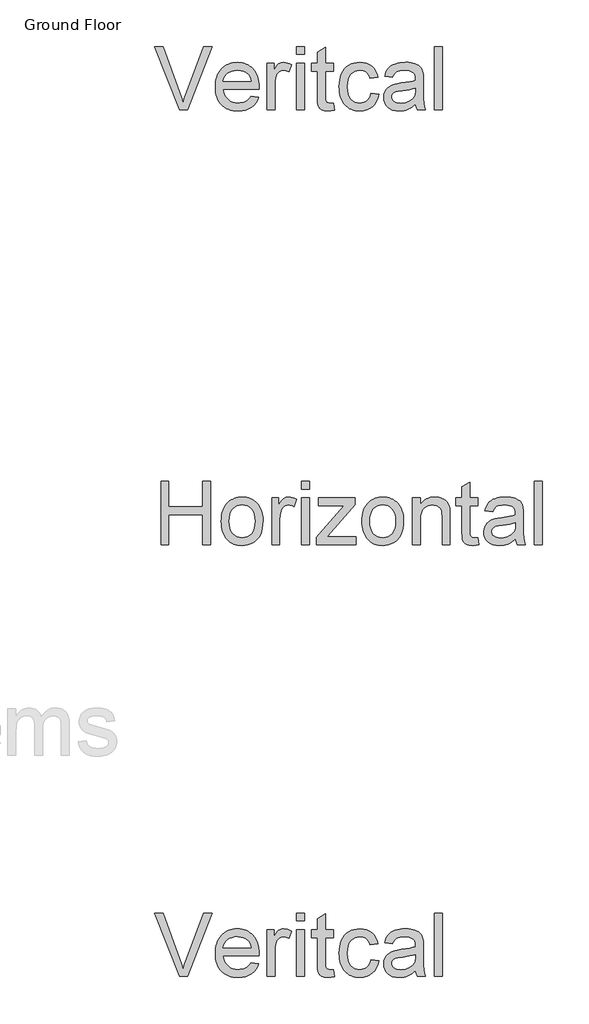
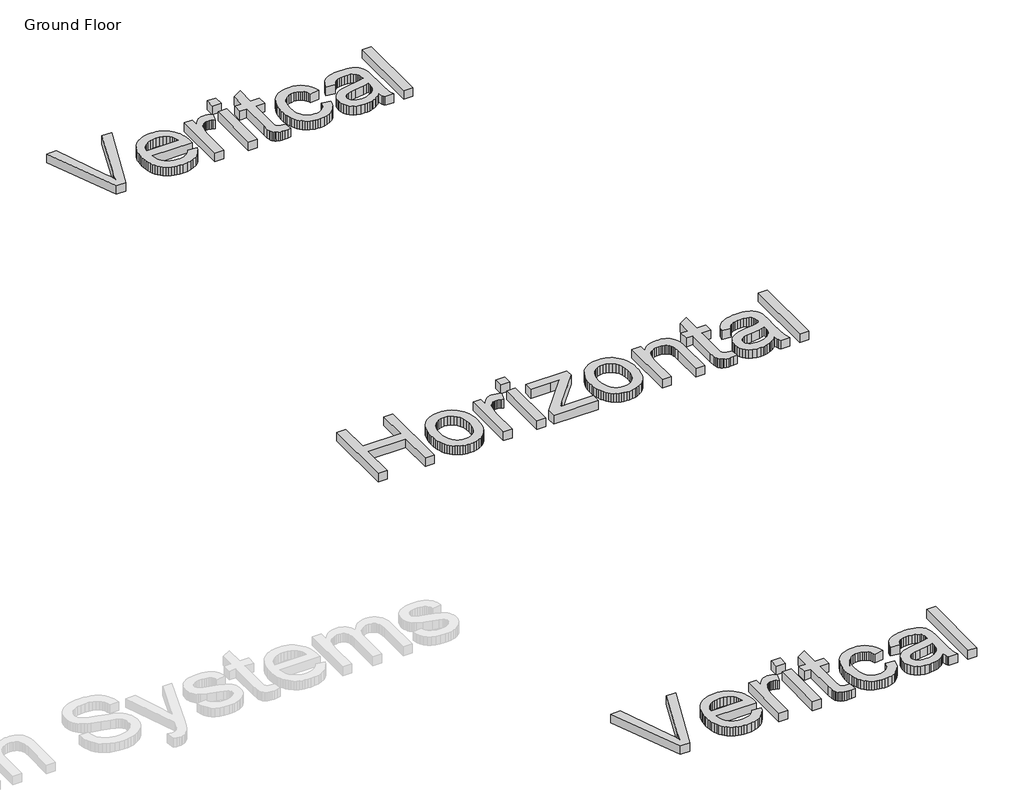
# One storey, part 4 of 9: 3 proxies.
"""IFC4 building model written with IfcOpenShell, lengths in millimetres."""

from ifc_helpers import new_model, si_unit, origin, origin_with_axes, place, context, project, spatial, polyline, outline, extrude, element, save

model = new_model("IFC4")

# Units and contexts
model_context = context("Model", 3, world=origin())
ifc_project = project(units=[si_unit("LENGTHUNIT", "METRE", prefix="MILLI")], contexts=[model_context])

# Site, building, storey
site = spatial("IfcSite", under=ifc_project)
building = spatial("IfcBuilding", under=site)
storey = spatial("IfcBuildingStorey", under=building, Name="Ground Floor", Elevation=0.0)

# Proxies
placement = place(None, origin())
element("IfcBuildingElementProxy", 1, Name="1200mm Arial", ObjectType="1200mm Arial", at=placement, inside=storey, context=model_context, shape_type="SweptSolid", body=[
    extrude(outline(polyline([(-61169.2536736, -20199.8558388), (-61636.9525372, -19024.5831115), (-61479.7139008, -19024.5831115), (-61166.6712872, -19871.318907), (-61131.8808042, -19969.9517195), (-61103.2593554, -20062.1285661), (-61074.1357758, -19966.6520036), (-61040.708219, -19871.318907), (-60726.8048099, -19024.5831115), (-60569.5661736, -19024.5831115), (-61017.4667417, -20199.8558388), (-61169.2536736, -20199.8558388)])), origin_with_axes(), (0.0, 0.0, 1.0), 150.0),
    extrude(outline(polyline([(-59847.0718554, -19942.7649297), (-59703.0320827, -19961.1285661), (-59725.116866, -20018.8197948), (-59754.9308753, -20069.6605263), (-59792.4741103, -20113.6507607), (-59837.7465713, -20150.7904979), (-59890.2819939, -20180.2906755), (-59949.6141139, -20201.3622309), (-60015.7429314, -20214.0051641), (-60088.6684463, -20218.2194752), (-60135.4876491, -20216.4014931), (-60179.8230983, -20210.9475469), (-60221.6747939, -20201.8576366), (-60261.0427361, -20189.1317621), (-60297.9269246, -20172.7699235), (-60332.3273596, -20152.7721208), (-60364.2440411, -20129.1383539), (-60393.676969, -20101.8686229), (-60420.1060795, -20071.3171092), (-60443.0113085, -20037.8379943), (-60462.3926562, -20001.4312783), (-60478.2501224, -19962.096961), (-60490.5837073, -19919.8350425), (-60499.3934108, -19874.6455228), (-60504.6792329, -19826.5284018), (-60506.4411736, -19775.4836797), (-60504.6612996, -19722.7016751), (-60499.3216778, -19672.9593544), (-60490.4223081, -19626.2567177), (-60477.9631906, -19582.5937649), (-60461.9443252, -19541.9704961), (-60442.3657119, -19504.3869112), (-60419.2273508, -19469.8430103), (-60392.5292417, -19438.3387934), (-60362.9931977, -19410.2284418), (-60331.3410315, -19385.8661371), (-60297.5727432, -19365.2518793), (-60261.6883327, -19348.3856684), (-60223.6878, -19335.2675043), (-60183.5711452, -19325.8973871), (-60141.3383682, -19320.2753168), (-60096.989469, -19318.4012934), (-60054.0909205, -19320.2708335), (-60013.1964115, -19325.8794539), (-59974.3059418, -19335.2271545), (-59937.4195116, -19348.3139354), (-59902.5371208, -19365.1397965), (-59869.6587694, -19385.704738), (-59838.7844575, -19410.0087596), (-59809.9141849, -19438.0518615), (-59783.7876979, -19469.4843456), (-59761.1447425, -19503.9565135), (-59741.9853186, -19541.4683654), (-59726.3094264, -19582.0199013), (-59714.1170658, -19625.6111211), (-59705.4082368, -19672.2420249), (-59700.1829394, -19721.9126126), (-59698.4411736, -19774.6228843), (-59699.301969, -19814.2194752), (-60359.5320827, -19814.2194752), (-60351.0227609, -19872.8432323), (-60334.1027503, -19924.1860945), (-60308.7720507, -19968.2480618), (-60275.0306622, -20005.0291343), (-60234.7436416, -20034.0271811), (-60189.7760457, -20054.7400718), (-60140.1278746, -20067.1678061), (-60085.7991281, -20071.3103843), (-60045.1624094, -20069.3915277), (-60007.6102077, -20063.6349581), (-59973.142523, -20054.0406755), (-59941.7593554, -20040.6086797), (-59913.4607048, -20022.9803061), (-59888.2465713, -20000.7968899), (-59866.1169548, -19974.0584311), (-59847.0718554, -19942.7649297)]), holes=[polyline([(-60359.5320827, -19667.3103843), (-59845.3502645, -19667.3103843), (-59852.9001579, -19625.7411371), (-59865.2202929, -19589.6953274), (-59882.3106693, -19559.1729553), (-59904.1712872, -19534.1740206), (-59944.2341423, -19504.0461797), (-59989.8204349, -19482.5262934), (-60040.930165, -19469.6143615), (-60097.5633327, -19465.3103843), (-60149.2200265, -19468.7445995), (-60196.5906764, -19479.0472451), (-60239.6752822, -19496.2183211), (-60278.473844, -19520.2578274), (-60311.0316388, -19550.0539034), (-60335.3939434, -19584.4946882), (-60351.5607581, -19623.5801818), (-60359.5320827, -19667.3103843)])]), origin_with_axes(), (0.0, 0.0, 1.0), 150.0),
    extrude(outline(polyline([(-59551.5320827, -20199.8558388), (-59551.5320827, -19336.7649297), (-59422.9866281, -19336.7649297), (-59422.9866281, -19464.4495888), (-59398.7767559, -19423.6335377), (-59375.4994122, -19390.4211797), (-59353.1545969, -19364.8125149), (-59331.7423099, -19346.8075434), (-59310.2941565, -19334.379809), (-59287.8417417, -19325.5028559), (-59264.3850656, -19320.176684), (-59239.9241281, -19318.4012934), (-59203.4837872, -19321.2347451), (-59166.7565145, -19329.7351002), (-59129.7423099, -19343.9023587), (-59092.4411736, -19363.7365206), (-59141.5065145, -19495.4382252), (-59167.3303781, -19482.2572948), (-59193.1542417, -19472.8423445), (-59218.9781054, -19467.1933743), (-59244.801969, -19465.3103843), (-59267.3171501, -19467.1216414), (-59288.6666707, -19472.5554127), (-59308.8505308, -19481.6116982), (-59327.8687304, -19494.2904979), (-59345.0039399, -19510.1793473), (-59359.5388298, -19528.865782), (-59371.4734001, -19550.3498019), (-59380.8076508, -19574.631407), (-59391.2268625, -19614.7301286), (-59398.6691565, -19656.693907), (-59404.6229917, -19746.2166343), (-59404.6229917, -20199.8558388), (-59551.5320827, -20199.8558388)])), origin_with_axes(), (0.0, 0.0, 1.0), 150.0),
    extrude(outline(polyline([(-59000.6229917, -19171.4922024), (-59000.6229917, -19024.5831115), (-58853.7139008, -19024.5831115), (-58853.7139008, -19171.4922024), (-59000.6229917, -19171.4922024)])), origin_with_axes(), (0.0, 0.0, 1.0), 150.0),
    extrude(outline(polyline([(-59000.6229917, -20199.8558388), (-59000.6229917, -19336.7649297), (-58853.7139008, -19336.7649297), (-58853.7139008, -20199.8558388), (-59000.6229917, -20199.8558388)])), origin_with_axes(), (0.0, 0.0, 1.0), 150.0),
    extrude(outline(polyline([(-58321.1684463, -20077.3359524), (-58302.8048099, -20204.1598161), (-58360.9802361, -20214.7045604), (-58412.6996963, -20218.2194752), (-58450.1980983, -20216.6951499), (-58483.2131906, -20212.122174), (-58511.7449733, -20204.5005476), (-58535.7934463, -20193.8302706), (-58555.986273, -20180.6852067), (-58572.9511167, -20165.6392195), (-58586.6879775, -20148.692309), (-58597.1968554, -20129.8444752), (-58604.9798809, -20104.5765419), (-58610.5391849, -20068.3693331), (-58614.9866281, -19963.1370888), (-58614.9866281, -19483.6740206), (-58725.1684463, -19483.6740206), (-58725.1684463, -19336.7649297), (-58614.9866281, -19336.7649297), (-58614.9866281, -19127.0177706), (-58468.0775372, -19040.6512934), (-58468.0775372, -19336.7649297), (-58321.1684463, -19336.7649297), (-58321.1684463, -19483.6740206), (-58468.0775372, -19483.6740206), (-58468.0775372, -19958.8331115), (-58466.1407474, -20007.1811229), (-58460.3303781, -20034.5831115), (-58450.180165, -20049.7546314), (-58435.223844, -20061.4112365), (-58414.0267559, -20068.8355973), (-58385.1542417, -20071.3103843), (-58321.1684463, -20077.3359524)])), origin_with_axes(), (0.0, 0.0, 1.0), 150.0),
    extrude(outline(polyline([(-57623.3502645, -19887.6740206), (-57476.4411736, -19906.037657), (-57492.4196892, -19975.3585909), (-57517.4006906, -20036.6992337), (-57551.3841778, -20090.0595853), (-57594.3701508, -20135.4396456), (-57644.5473525, -20171.6558211), (-57700.1045258, -20197.5245178), (-57761.0416707, -20213.0457358), (-57827.3587872, -20218.2194752), (-57869.6207057, -20216.414943), (-57909.7530521, -20211.0013466), (-57947.7558264, -20201.9786859), (-57983.6290287, -20189.346961), (-58017.3726588, -20173.1061717), (-58048.9867169, -20153.2563182), (-58078.4712029, -20129.7974004), (-58105.8261167, -20102.7294184), (-58130.4731116, -20072.2899874), (-58151.8338405, -20038.716723), (-58169.9083034, -20002.0096252), (-58184.6965003, -19962.1686939), (-58196.1984312, -19919.1939292), (-58204.4140961, -19873.085331), (-58209.3434951, -19823.8428994), (-58210.9866281, -19771.4666343), (-58208.1800763, -19703.9210909), (-58199.7604207, -19640.7333246), (-58185.7276615, -19581.9033353), (-58166.0817986, -19527.4311229), (-58140.6883327, -19478.4106151), (-58109.4127645, -19435.9357394), (-58072.255094, -19400.0064958), (-58029.2153213, -19370.6228843), (-57982.2392027, -19347.7759382), (-57933.2724946, -19331.4566911), (-57882.315197, -19321.6651428), (-57829.3673099, -19318.4012934), (-57764.1889541, -19322.884603), (-57705.2334321, -19336.334532), (-57652.5007439, -19358.7510803), (-57605.9908895, -19390.1342479), (-57566.4929314, -19429.7667053), (-57534.7959321, -19476.9311229), (-57510.8998916, -19531.6275007), (-57494.8048099, -19593.8558388), (-57641.7139008, -19612.2194752), (-57653.1822069, -19577.904223), (-57668.3626934, -19548.1260803), (-57687.2553603, -19522.8850469), (-57709.8602077, -19502.1811229), (-57735.6033717, -19486.0501747), (-57763.9109889, -19474.5280689), (-57794.7830592, -19467.6148054), (-57828.2195827, -19465.3103843), (-57878.1367524, -19469.8474936), (-57923.158148, -19483.4588218), (-57963.2837694, -19506.1443686), (-57998.5136167, -19537.9041343), (-58013.8801606, -19557.3706648), (-58027.1978319, -19579.4733814), (-58047.6865571, -19631.5873729), (-58059.9797922, -19694.2461087), (-58064.0775372, -19767.4495888), (-58060.0694584, -19841.7559631), (-58048.0452219, -19905.1409951), (-58028.0048277, -19957.6046847), (-58014.9785715, -19979.7410261), (-57999.9482758, -19999.147032), (-57965.4178248, -20030.7184986), (-57925.9557332, -20053.2695462), (-57881.562001, -20066.8001747), (-57832.2366281, -20071.3103843), (-57792.4876047, -20068.4948658), (-57756.1638298, -20060.0483104), (-57723.2653035, -20045.9707181), (-57693.7920258, -20026.2620888), (-57668.5689257, -20000.7072237), (-57648.4209321, -19969.090924), (-57633.348045, -19931.4131897), (-57623.3502645, -19887.6740206)])), origin_with_axes(), (0.0, 0.0, 1.0), 150.0),
    extrude(outline(polyline([(-56796.9866281, -20089.6740206), (-56831.8219442, -20122.3663147), (-56867.1773241, -20149.8579695), (-56903.052768, -20172.1489851), (-56939.4482758, -20189.2393615), (-56976.7763121, -20201.9181612), (-57015.4493412, -20210.9744468), (-57055.4673632, -20216.4082181), (-57096.8303781, -20218.2194752), (-57162.241866, -20213.8616982), (-57219.6013298, -20200.7883672), (-57268.9087694, -20178.9994823), (-57310.1641849, -20148.4950434), (-57342.7399129, -20111.2118402), (-57366.00829, -20069.0866627), (-57379.9693163, -20022.1195107), (-57384.6229917, -19970.3103843), (-57382.8655344, -19939.1603487), (-57377.5931622, -19909.4091059), (-57368.8058753, -19881.0566556), (-57356.5036736, -19854.1029979), (-57341.3411203, -19829.1399297), (-57323.9727787, -19806.7592479), (-57304.3986487, -19786.9609524), (-57282.6187304, -19769.7450434), (-57234.0196537, -19741.7691911), (-57179.7536736, -19721.5404979), (-57126.8864861, -19710.278424), (-57052.6428781, -19699.4467479), (-56902.4340713, -19676.2052706), (-56844.4379775, -19663.0781399), (-56797.8474236, -19648.9467479), (-56796.9866281, -19616.2365206), (-56799.5152148, -19580.6211087), (-56807.1009747, -19550.6726002), (-56819.7439079, -19526.3909951), (-56837.4440145, -19507.7762934), (-56868.0381196, -19489.1974581), (-56905.3033895, -19475.9268615), (-56949.2398241, -19467.9645036), (-56999.8474236, -19465.3103843), (-57046.9042417, -19467.0768083), (-57087.3616281, -19472.3760803), (-57121.2195827, -19481.2082003), (-57148.4781054, -19493.5731684), (-57170.8767204, -19510.4393793), (-57190.154952, -19532.775228), (-57206.3128, -19560.5807145), (-57219.3502645, -19593.8558388), (-57366.2593554, -19575.4922024), (-57355.0779811, -19533.1697593), (-57340.75829, -19495.1512934), (-57323.3002822, -19461.4368047), (-57302.7039577, -19432.0262934), (-57278.081621, -19406.3279624), (-57248.545577, -19383.7500149), (-57214.0958255, -19364.292451), (-57174.7323667, -19347.9552706), (-57131.2532297, -19335.0254056), (-57084.4564434, -19325.7897877), (-57034.3420081, -19320.2484169), (-56980.9099236, -19318.4012934), (-56928.679366, -19320.0332181), (-56881.595648, -19324.9289922), (-56839.6587694, -19333.0886158), (-56802.8687304, -19344.5120888), (-56770.9206657, -19358.4013821), (-56743.5097105, -19373.9584666), (-56720.6358646, -19391.1833424), (-56702.2991281, -19410.0760093), (-56687.4324733, -19431.1027316), (-56674.9688724, -19454.7297735), (-56657.2508327, -19509.7848161), (-56651.8708611, -19560.5717479), (-56650.0775372, -19638.3302706), (-56650.0775372, -19821.1058388), (-56648.2124804, -19980.3171314), (-56642.6173099, -20076.3316911), (-56631.5704349, -20139.4208246), (-56613.3502645, -20199.8558388), (-56760.2593554, -20199.8558388), (-56773.3147531, -20175.3231684), (-56783.7877645, -20148.7819752), (-56796.9866281, -20089.6740206)]), holes=[polyline([(-56796.9866281, -19795.8558388), (-56841.389327, -19808.570505), (-56895.6911736, -19820.3167763), (-57033.9923099, -19840.9041343), (-57110.2085741, -19852.1662081), (-57160.3857758, -19864.7194752), (-57193.2753355, -19881.0028559), (-57217.6286736, -19903.4552706), (-57232.692594, -19930.3551286), (-57237.7139008, -19959.9808388), (-57234.9790819, -19982.8098516), (-57226.7746253, -20003.6662081), (-57213.1005308, -20022.5499084), (-57193.9567986, -20039.4609524), (-57169.5227609, -20053.3950789), (-57139.9777503, -20063.3480263), (-57105.3217666, -20069.3197948), (-57065.5548099, -20071.3103843), (-57024.9539577, -20069.1135625), (-56986.6485599, -20062.5230973), (-56950.6386167, -20051.5389887), (-56916.9241281, -20036.1612365), (-56886.5093554, -20017.6631009), (-56860.3985599, -19997.3178416), (-56838.5917417, -19975.1254588), (-56821.0889008, -19951.0859524), (-56810.9207545, -19929.5660661), (-56803.6577929, -19903.4552706), (-56799.3000159, -19872.7535661), (-56797.8474236, -19837.4609524), (-56796.9866281, -19795.8558388)])]), origin_with_axes(), (0.0, 0.0, 1.0), 150.0),
    extrude(outline(polyline([(-56448.0775372, -20199.8558388), (-56448.0775372, -19024.5831115), (-56301.1684463, -19024.5831115), (-56301.1684463, -20199.8558388), (-56448.0775372, -20199.8558388)])), origin_with_axes(), (0.0, 0.0, 1.0), 150.0),
])
element("IfcBuildingElementProxy", 2, Name="1200mm Arial", ObjectType="1200mm Arial", at=placement, inside=storey, context=model_context, shape_type="SweptSolid", body=[
    extrude(outline(polyline([(-61516.4411736, -12199.8558388), (-61516.4411736, -11024.5831115), (-61369.5320827, -11024.5831115), (-61369.5320827, -11502.037657), (-60745.1684463, -11502.037657), (-60745.1684463, -11024.5831115), (-60598.2593554, -11024.5831115), (-60598.2593554, -12199.8558388), (-60745.1684463, -12199.8558388), (-60745.1684463, -11648.9467479), (-61369.5320827, -11648.9467479), (-61369.5320827, -12199.8558388), (-61516.4411736, -12199.8558388)])), origin_with_axes(), (0.0, 0.0, 1.0), 150.0),
    extrude(outline(polyline([(-60396.2593554, -11768.3103843), (-60394.2732492, -11710.4891396), (-60388.3149307, -11656.5325078), (-60378.3843998, -11606.440489), (-60364.4816565, -11560.2130831), (-60346.6067009, -11517.8502902), (-60324.7595329, -11479.3521101), (-60298.9401526, -11444.718543), (-60269.1485599, -11413.9495888), (-60241.8810706, -11391.5554571), (-60213.1609889, -11372.1472095), (-60182.9883149, -11355.7248463), (-60151.3630486, -11342.2883672), (-60118.2851899, -11331.8377724), (-60083.7547389, -11324.3730618), (-60010.3360599, -11318.4012934), (-59968.8407874, -11320.2192754), (-59929.2867879, -11325.6732216), (-59891.6740615, -11334.763132), (-59856.0026082, -11347.4890064), (-59822.272428, -11363.850845), (-59790.4835209, -11383.8486478), (-59760.6358868, -11407.4824146), (-59732.7295258, -11434.7521456), (-59707.4772842, -11465.227443), (-59685.5920081, -11498.4779091), (-59667.0736975, -11534.5035439), (-59651.9223525, -11573.3043473), (-59640.1379731, -11614.8803195), (-59631.7205592, -11659.2314603), (-59626.6701109, -11706.3577697), (-59624.9866281, -11756.2592479), (-59627.9635457, -11834.8964993), (-59636.8942986, -11904.6747309), (-59651.7788866, -11965.5939425), (-59672.6173099, -12017.6541343), (-59699.1495365, -12062.6217301), (-59731.1155344, -12102.2631541), (-59768.5153035, -12136.5784063), (-59811.348844, -12165.5674865), (-59857.9483646, -12188.6027316), (-59906.6460741, -12205.056478), (-59957.4419726, -12214.9287259), (-60010.3360599, -12218.2194752), (-60052.4858957, -12216.4082181), (-60092.5689257, -12210.9744468), (-60130.5851499, -12201.9181612), (-60166.5345684, -12189.2393615), (-60200.4171812, -12172.9380476), (-60232.2329882, -12153.0142195), (-60261.9819894, -12129.4678772), (-60289.6641849, -12102.2990206), (-60314.647428, -12071.7228487), (-60336.299572, -12037.9545604), (-60354.6206169, -12000.9941556), (-60369.6105628, -11960.8416343), (-60381.2694095, -11917.4969965), (-60389.5971572, -11870.9602422), (-60394.5938058, -11821.2313715), (-60396.2593554, -11768.3103843)]), holes=[polyline([(-60249.3502645, -11768.0234524), (-60245.1000869, -11839.2811762), (-60232.3495542, -11900.9804837), (-60211.0986665, -11953.121375), (-60181.3474236, -11995.7038502), (-60145.158148, -12028.7817088), (-60104.5931622, -12052.4087507), (-60059.6524662, -12066.5849759), (-60010.3360599, -12071.3103843), (-59961.270719, -12066.558076), (-59916.5093554, -12052.3011513), (-59876.051969, -12028.5396101), (-59839.8985599, -11995.2734524), (-59810.147317, -11952.2695462), (-59788.8964292, -11899.2947593), (-59776.1458966, -11836.3490916), (-59771.895719, -11763.4325434), (-59776.1727964, -11694.4344077), (-59789.0040287, -11634.3490916), (-59810.3894157, -11583.1765952), (-59840.3289577, -11540.9169184), (-59876.616866, -11507.8390597), (-59917.0473525, -11484.2120178), (-59961.6204172, -11470.0357926), (-60010.3360599, -11465.3103843), (-60059.6524662, -11470.0178594), (-60104.5931622, -11484.1402848), (-60145.158148, -11507.6776605), (-60181.3474236, -11540.6299865), (-60211.0986665, -11583.086929), (-60232.3495542, -11635.1381541), (-60245.1000869, -11696.783662), (-60249.3502645, -11768.0234524)])]), origin_with_axes(), (0.0, 0.0, 1.0), 150.0),
    extrude(outline(polyline([(-59459.7139008, -12199.8558388), (-59459.7139008, -11336.7649297), (-59331.1684463, -11336.7649297), (-59331.1684463, -11464.4495888), (-59306.9585741, -11423.6335377), (-59283.6812304, -11390.4211797), (-59261.336415, -11364.8125149), (-59239.9241281, -11346.8075434), (-59218.4759747, -11334.379809), (-59196.0235599, -11325.5028559), (-59172.5668838, -11320.176684), (-59148.1059463, -11318.4012934), (-59111.6656054, -11321.2347451), (-59074.9383327, -11329.7351002), (-59037.9241281, -11343.9023587), (-59000.6229917, -11363.7365206), (-59049.6883327, -11495.4382252), (-59075.5121963, -11482.2572948), (-59101.3360599, -11472.8423445), (-59127.1599236, -11467.1933743), (-59152.9837872, -11465.3103843), (-59175.4989683, -11467.1216414), (-59196.8484889, -11472.5554127), (-59217.032349, -11481.6116982), (-59236.0505486, -11494.2904979), (-59253.1857581, -11510.1793473), (-59267.720648, -11528.865782), (-59279.6552183, -11550.3498019), (-59288.989469, -11574.631407), (-59299.4086807, -11614.7301286), (-59306.8509747, -11656.693907), (-59312.8048099, -11746.2166343), (-59312.8048099, -12199.8558388), (-59459.7139008, -12199.8558388)])), origin_with_axes(), (0.0, 0.0, 1.0), 150.0),
    extrude(outline(polyline([(-58908.8048099, -11171.4922024), (-58908.8048099, -11024.5831115), (-58761.895719, -11024.5831115), (-58761.895719, -11171.4922024), (-58908.8048099, -11171.4922024)])), origin_with_axes(), (0.0, 0.0, 1.0), 150.0),
    extrude(outline(polyline([(-58908.8048099, -12199.8558388), (-58908.8048099, -11336.7649297), (-58761.895719, -11336.7649297), (-58761.895719, -12199.8558388), (-58908.8048099, -12199.8558388)])), origin_with_axes(), (0.0, 0.0, 1.0), 150.0),
    extrude(outline(polyline([(-58633.3502645, -12199.8558388), (-58633.3502645, -12061.5547024), (-58126.3417417, -11483.6740206), (-58276.4070827, -11483.6740206), (-58596.6229917, -11483.6740206), (-58596.6229917, -11336.7649297), (-57917.1684463, -11336.7649297), (-57917.1684463, -11461.5802706), (-58366.7906054, -11974.3274297), (-58435.6542417, -12052.9467479), (-58265.7906054, -12052.9467479), (-57898.8048099, -12052.9467479), (-57898.8048099, -12199.8558388), (-58633.3502645, -12199.8558388)])), origin_with_axes(), (0.0, 0.0, 1.0), 150.0),
    extrude(outline(polyline([(-57788.6229917, -11768.3103843), (-57786.6368856, -11710.4891396), (-57780.678567, -11656.5325078), (-57770.7480361, -11606.440489), (-57756.8452929, -11560.2130831), (-57738.9703373, -11517.8502902), (-57717.1231693, -11479.3521101), (-57691.303789, -11444.718543), (-57661.5121963, -11413.9495888), (-57634.2447069, -11391.5554571), (-57605.5246253, -11372.1472095), (-57575.3519513, -11355.7248463), (-57543.7266849, -11342.2883672), (-57510.6488263, -11331.8377724), (-57476.1183753, -11324.3730618), (-57402.6996963, -11318.4012934), (-57361.2044237, -11320.2192754), (-57321.6504243, -11325.6732216), (-57284.0376979, -11334.763132), (-57248.3662446, -11347.4890064), (-57214.6360644, -11363.850845), (-57182.8471572, -11383.8486478), (-57152.9995232, -11407.4824146), (-57125.0931622, -11434.7521456), (-57099.8409205, -11465.227443), (-57077.9556444, -11498.4779091), (-57059.4373339, -11534.5035439), (-57044.2859889, -11573.3043473), (-57032.5016095, -11614.8803195), (-57024.0841956, -11659.2314603), (-57019.0337472, -11706.3577697), (-57017.3502645, -11756.2592479), (-57020.3271821, -11834.8964993), (-57029.2579349, -11904.6747309), (-57044.142523, -11965.5939425), (-57064.9809463, -12017.6541343), (-57091.5131728, -12062.6217301), (-57123.4791707, -12102.2631541), (-57160.8789399, -12136.5784063), (-57203.7124804, -12165.5674865), (-57250.312001, -12188.6027316), (-57299.0097105, -12205.056478), (-57349.8056089, -12214.9287259), (-57402.6996963, -12218.2194752), (-57444.849532, -12216.4082181), (-57484.9325621, -12210.9744468), (-57522.9487863, -12201.9181612), (-57558.8982048, -12189.2393615), (-57592.7808176, -12172.9380476), (-57624.5966246, -12153.0142195), (-57654.3456258, -12129.4678772), (-57682.0278213, -12102.2990206), (-57707.0110644, -12071.7228487), (-57728.6632084, -12037.9545604), (-57746.9842533, -12000.9941556), (-57761.9741991, -11960.8416343), (-57773.6330459, -11917.4969965), (-57781.9607936, -11870.9602422), (-57786.9574422, -11821.2313715), (-57788.6229917, -11768.3103843)]), holes=[polyline([(-57641.7139008, -11768.0234524), (-57637.4637233, -11839.2811762), (-57624.7131906, -11900.9804837), (-57603.4623028, -11953.121375), (-57573.7110599, -11995.7038502), (-57537.5217844, -12028.7817088), (-57496.9567986, -12052.4087507), (-57452.0161025, -12066.5849759), (-57402.6996963, -12071.3103843), (-57353.6343554, -12066.558076), (-57308.8729917, -12052.3011513), (-57268.4156054, -12028.5396101), (-57232.2621963, -11995.2734524), (-57202.5109534, -11952.2695462), (-57181.2600656, -11899.2947593), (-57168.5095329, -11836.3490916), (-57164.2593554, -11763.4325434), (-57168.5364328, -11694.4344077), (-57181.367665, -11634.3490916), (-57202.7530521, -11583.1765952), (-57232.692594, -11540.9169184), (-57268.9805024, -11507.8390597), (-57309.4109889, -11484.2120178), (-57353.9840535, -11470.0357926), (-57402.6996963, -11465.3103843), (-57452.0161025, -11470.0178594), (-57496.9567986, -11484.1402848), (-57537.5217844, -11507.6776605), (-57573.7110599, -11540.6299865), (-57603.4623028, -11583.086929), (-57624.7131906, -11635.1381541), (-57637.4637233, -11696.783662), (-57641.7139008, -11768.0234524)])]), origin_with_axes(), (0.0, 0.0, 1.0), 150.0),
    extrude(outline(polyline([(-56852.0775372, -12199.8558388), (-56852.0775372, -11336.7649297), (-56705.1684463, -11336.7649297), (-56705.1684463, -11457.2762934), (-56680.9316743, -11424.7274652), (-56654.1304491, -11396.5184809), (-56624.7647709, -11372.6493402), (-56592.8346395, -11353.1200434), (-56558.340055, -11337.9305902), (-56521.2810173, -11327.0809809), (-56481.6575265, -11320.5712152), (-56439.4695827, -11318.4012934), (-56402.5002112, -11320.1497841), (-56367.055165, -11325.3952564), (-56333.1344442, -11334.1377103), (-56300.7380486, -11346.3771456), (-56271.0944051, -11361.4589993), (-56245.4319406, -11378.7287081), (-56223.7506551, -11398.186272), (-56206.0505486, -11419.8316911), (-56179.330023, -11469.5784951), (-56162.0065145, -11527.8615206), (-56156.1961452, -11583.5980263), (-56154.2593554, -11669.8927706), (-56154.2593554, -12199.8558388), (-56301.1684463, -12199.8558388), (-56301.1684463, -11689.6910661), (-56305.4006906, -11613.7258672), (-56310.690996, -11583.9746243), (-56318.0974236, -11559.7109524), (-56328.1848703, -11539.276027), (-56341.5182332, -11521.0110235), (-56358.0975123, -11504.9159418), (-56377.9227077, -11490.990782), (-56400.3123561, -11479.755608), (-56424.5849946, -11471.7304837), (-56450.7406231, -11466.9154091), (-56478.7792417, -11465.3103843), (-56523.3881728, -11468.9149652), (-56564.8229207, -11479.7287081), (-56603.0834853, -11497.751613), (-56638.1698667, -11522.9836797), (-56653.8726588, -11539.0204784), (-56667.4817453, -11558.2942266), (-56678.9971262, -11580.8049244), (-56688.4188014, -11606.5525718), (-56700.9810351, -11667.7587152), (-56705.1684463, -11741.912657), (-56705.1684463, -12199.8558388), (-56852.0775372, -12199.8558388)])), origin_with_axes(), (0.0, 0.0, 1.0), 150.0),
    extrude(outline(polyline([(-55640.0775372, -12077.3359524), (-55621.7139008, -12204.1598161), (-55679.889327, -12214.7045604), (-55731.6087872, -12218.2194752), (-55769.1071892, -12216.6951499), (-55802.1222815, -12212.122174), (-55830.6540642, -12204.5005476), (-55854.7025372, -12193.8302706), (-55874.8953639, -12180.6852067), (-55891.8602077, -12165.6392195), (-55905.5970684, -12148.692309), (-55916.1059463, -12129.8444752), (-55923.8889719, -12104.5765419), (-55929.4482758, -12068.3693331), (-55933.895719, -11963.1370888), (-55933.895719, -11483.6740206), (-56044.0775372, -11483.6740206), (-56044.0775372, -11336.7649297), (-55933.895719, -11336.7649297), (-55933.895719, -11127.0177706), (-55786.9866281, -11040.6512934), (-55786.9866281, -11336.7649297), (-55640.0775372, -11336.7649297), (-55640.0775372, -11483.6740206), (-55786.9866281, -11483.6740206), (-55786.9866281, -11958.8331115), (-55785.0498383, -12007.1811229), (-55779.239469, -12034.5831115), (-55769.0892559, -12049.7546314), (-55754.1329349, -12061.4112365), (-55732.9358469, -12068.8355973), (-55704.0633327, -12071.3103843), (-55640.0775372, -12077.3359524)])), origin_with_axes(), (0.0, 0.0, 1.0), 150.0),
    extrude(outline(polyline([(-54942.2593554, -12089.6740206), (-54977.0946714, -12122.3663147), (-55012.4500514, -12149.8579695), (-55048.3254953, -12172.1489851), (-55084.7210031, -12189.2393615), (-55122.0490393, -12201.9181612), (-55160.7220684, -12210.9744468), (-55200.7400905, -12216.4082181), (-55242.1031054, -12218.2194752), (-55307.5145933, -12213.8616982), (-55364.8740571, -12200.7883672), (-55414.1814967, -12178.9994823), (-55455.4369122, -12148.4950434), (-55488.0126402, -12111.2118402), (-55511.2810173, -12069.0866627), (-55525.2420436, -12022.1195107), (-55529.895719, -11970.3103843), (-55528.1382616, -11939.1603487), (-55522.8658895, -11909.4091059), (-55514.0786025, -11881.0566556), (-55501.7764008, -11854.1029979), (-55486.6138476, -11829.1399297), (-55469.2455059, -11806.7592479), (-55449.671376, -11786.9609524), (-55427.8914577, -11769.7450434), (-55379.2923809, -11741.7691911), (-55325.0264008, -11721.5404979), (-55272.1592133, -11710.278424), (-55197.9156054, -11699.4467479), (-55047.7067986, -11676.2052706), (-54989.7107048, -11663.0781399), (-54943.1201508, -11648.9467479), (-54942.2593554, -11616.2365206), (-54944.787942, -11580.6211087), (-54952.373702, -11550.6726002), (-54965.0166352, -11526.3909951), (-54982.7167417, -11507.7762934), (-55013.3108469, -11489.1974581), (-55050.5761167, -11475.9268615), (-55094.5125514, -11467.9645036), (-55145.1201508, -11465.3103843), (-55192.176969, -11467.0768083), (-55232.6343554, -11472.3760803), (-55266.4923099, -11481.2082003), (-55293.7508327, -11493.5731684), (-55316.1494477, -11510.4393793), (-55335.4276792, -11532.775228), (-55351.5855273, -11560.5807145), (-55364.6229917, -11593.8558388), (-55511.5320827, -11575.4922024), (-55500.3507084, -11533.1697593), (-55486.0310173, -11495.1512934), (-55468.5730095, -11461.4368047), (-55447.9766849, -11432.0262934), (-55423.3543483, -11406.3279624), (-55393.8183042, -11383.7500149), (-55359.3685528, -11364.292451), (-55320.005094, -11347.9552706), (-55276.5259569, -11335.0254056), (-55229.7291707, -11325.7897877), (-55179.6147353, -11320.2484169), (-55126.1826508, -11318.4012934), (-55073.9520933, -11320.0332181), (-55026.8683753, -11324.9289922), (-54984.9314967, -11333.0886158), (-54948.1414577, -11344.5120888), (-54916.193393, -11358.4013821), (-54888.7824378, -11373.9584666), (-54865.9085919, -11391.1833424), (-54847.5718554, -11410.0760093), (-54832.7052005, -11431.1027316), (-54820.2415997, -11454.7297735), (-54802.5235599, -11509.7848161), (-54797.1435883, -11560.5717479), (-54795.3502645, -11638.3302706), (-54795.3502645, -11821.1058388), (-54793.4852077, -11980.3171314), (-54787.8900372, -12076.3316911), (-54776.8431622, -12139.4208246), (-54758.6229917, -12199.8558388), (-54905.5320827, -12199.8558388), (-54918.5874804, -12175.3231684), (-54929.0604917, -12148.7819752), (-54942.2593554, -12089.6740206)]), holes=[polyline([(-54942.2593554, -11795.8558388), (-54986.6620542, -11808.570505), (-55040.9639008, -11820.3167763), (-55179.2650372, -11840.9041343), (-55255.4813014, -11852.1662081), (-55305.6585031, -11864.7194752), (-55338.5480628, -11881.0028559), (-55362.9014008, -11903.4552706), (-55377.9653213, -11930.3551286), (-55382.9866281, -11959.9808388), (-55380.2518092, -11982.8098516), (-55372.0473525, -12003.6662081), (-55358.3732581, -12022.5499084), (-55339.2295258, -12039.4609524), (-55314.7954882, -12053.3950789), (-55285.2504775, -12063.3480263), (-55250.5944939, -12069.3197948), (-55210.8275372, -12071.3103843), (-55170.2266849, -12069.1135625), (-55131.9212872, -12062.5230973), (-55095.911344, -12051.5389887), (-55062.1968554, -12036.1612365), (-55031.7820827, -12017.6631009), (-55005.6712872, -11997.3178416), (-54983.864469, -11975.1254588), (-54966.3616281, -11951.0859524), (-54956.1934818, -11929.5660661), (-54948.9305202, -11903.4552706), (-54944.5727432, -11872.7535661), (-54943.1201508, -11837.4609524), (-54942.2593554, -11795.8558388)])]), origin_with_axes(), (0.0, 0.0, 1.0), 150.0),
    extrude(outline(polyline([(-54593.3502645, -12199.8558388), (-54593.3502645, -11024.5831115), (-54446.4411736, -11024.5831115), (-54446.4411736, -12199.8558388), (-54593.3502645, -12199.8558388)])), origin_with_axes(), (0.0, 0.0, 1.0), 150.0),
])
element("IfcBuildingElementProxy", 3, Name="1200mm Arial", ObjectType="1200mm Arial", at=placement, inside=storey, context=model_context, shape_type="SweptSolid", body=[
    extrude(outline(polyline([(-61169.2536736, -4149.4390061), (-61636.9525372, -2974.1662788), (-61479.7139008, -2974.1662788), (-61166.6712872, -3820.9020743), (-61131.8808042, -3919.5348868), (-61103.2593554, -4011.7117334), (-61074.1357758, -3916.2351709), (-61040.708219, -3820.9020743), (-60726.8048099, -2974.1662788), (-60569.5661736, -2974.1662788), (-61017.4667417, -4149.4390061), (-61169.2536736, -4149.4390061)])), origin_with_axes(), (0.0, 0.0, 1.0), 150.0),
    extrude(outline(polyline([(-59847.0718554, -3892.348097), (-59703.0320827, -3910.7117334), (-59725.116866, -3968.4029621), (-59754.9308753, -4019.2436936), (-59792.4741103, -4063.233928), (-59837.7465713, -4100.3736652), (-59890.2819939, -4129.8738428), (-59949.6141139, -4150.9453982), (-60015.7429314, -4163.5883314), (-60088.6684463, -4167.8026425), (-60135.4876491, -4165.9846604), (-60179.8230983, -4160.5307142), (-60221.6747939, -4151.4408039), (-60261.0427361, -4138.7149294), (-60297.9269246, -4122.3530908), (-60332.3273596, -4102.3552881), (-60364.2440411, -4078.7215212), (-60393.676969, -4051.4517902), (-60420.1060795, -4020.9002765), (-60443.0113085, -3987.4211617), (-60462.3926562, -3951.0144456), (-60478.2501224, -3911.6801283), (-60490.5837073, -3869.4182098), (-60499.3934108, -3824.2286901), (-60504.6792329, -3776.1115691), (-60506.4411736, -3725.066847), (-60504.6612996, -3672.2848424), (-60499.3216778, -3622.5425217), (-60490.4223081, -3575.839885), (-60477.9631906, -3532.1769323), (-60461.9443252, -3491.5536634), (-60442.3657119, -3453.9700786), (-60419.2273508, -3419.4261776), (-60392.5292417, -3387.9219607), (-60362.9931977, -3359.8116091), (-60331.3410315, -3335.4493044), (-60297.5727432, -3314.8350466), (-60261.6883327, -3297.9688357), (-60223.6878, -3284.8506716), (-60183.5711452, -3275.4805544), (-60141.3383682, -3269.8584841), (-60096.989469, -3267.9844607), (-60054.0909205, -3269.8540008), (-60013.1964115, -3275.4626212), (-59974.3059418, -3284.8103218), (-59937.4195116, -3297.8971027), (-59902.5371208, -3314.7229639), (-59869.6587694, -3335.2879053), (-59838.7844575, -3359.5919269), (-59809.9141849, -3387.6350288), (-59783.7876979, -3419.0675129), (-59761.1447425, -3453.5396808), (-59741.9853186, -3491.0515327), (-59726.3094264, -3531.6030686), (-59714.1170658, -3575.1942884), (-59705.4082368, -3621.8251922), (-59700.1829394, -3671.4957799), (-59698.4411736, -3724.2060516), (-59699.301969, -3763.8026425), (-60359.5320827, -3763.8026425), (-60351.0227609, -3822.4263996), (-60334.1027503, -3873.7692618), (-60308.7720507, -3917.8312291), (-60275.0306622, -3954.6123016), (-60234.7436416, -3983.6103484), (-60189.7760457, -4004.3232391), (-60140.1278746, -4016.7509734), (-60085.7991281, -4020.8935516), (-60045.1624094, -4018.974695), (-60007.6102077, -4013.2181254), (-59973.142523, -4003.6238428), (-59941.7593554, -3990.191847), (-59913.4607048, -3972.5634734), (-59888.2465713, -3950.3800573), (-59866.1169548, -3923.6415984), (-59847.0718554, -3892.348097)]), holes=[polyline([(-60359.5320827, -3616.8935516), (-59845.3502645, -3616.8935516), (-59852.9001579, -3575.3243044), (-59865.2202929, -3539.2784948), (-59882.3106693, -3508.7561226), (-59904.1712872, -3483.7571879), (-59944.2341423, -3453.629347), (-59989.8204349, -3432.1094607), (-60040.930165, -3419.1975288), (-60097.5633327, -3414.8935516), (-60149.2200265, -3418.3277668), (-60196.5906764, -3428.6304124), (-60239.6752822, -3445.8014884), (-60278.473844, -3469.8409948), (-60311.0316388, -3499.6370707), (-60335.3939434, -3534.0778555), (-60351.5607581, -3573.1633492), (-60359.5320827, -3616.8935516)])]), origin_with_axes(), (0.0, 0.0, 1.0), 150.0),
    extrude(outline(polyline([(-59551.5320827, -4149.4390061), (-59551.5320827, -3286.348097), (-59422.9866281, -3286.348097), (-59422.9866281, -3414.0327561), (-59398.7767559, -3373.216705), (-59375.4994122, -3340.004347), (-59353.1545969, -3314.3956823), (-59331.7423099, -3296.3907107), (-59310.2941565, -3283.9629763), (-59287.8417417, -3275.0860232), (-59264.3850656, -3269.7598513), (-59239.9241281, -3267.9844607), (-59203.4837872, -3270.8179124), (-59166.7565145, -3279.3182675), (-59129.7423099, -3293.485526), (-59092.4411736, -3313.3196879), (-59141.5065145, -3445.0213925), (-59167.3303781, -3431.8404621), (-59193.1542417, -3422.4255118), (-59218.9781054, -3416.7765416), (-59244.801969, -3414.8935516), (-59267.3171501, -3416.7048087), (-59288.6666707, -3422.13858), (-59308.8505308, -3431.1948655), (-59327.8687304, -3443.8736652), (-59345.0039399, -3459.7625146), (-59359.5388298, -3478.4489493), (-59371.4734001, -3499.9329692), (-59380.8076508, -3524.2145743), (-59391.2268625, -3564.3132959), (-59398.6691565, -3606.2770743), (-59404.6229917, -3695.7998016), (-59404.6229917, -4149.4390061), (-59551.5320827, -4149.4390061)])), origin_with_axes(), (0.0, 0.0, 1.0), 150.0),
    extrude(outline(polyline([(-59000.6229917, -3121.0753698), (-59000.6229917, -2974.1662788), (-58853.7139008, -2974.1662788), (-58853.7139008, -3121.0753698), (-59000.6229917, -3121.0753698)])), origin_with_axes(), (0.0, 0.0, 1.0), 150.0),
    extrude(outline(polyline([(-59000.6229917, -4149.4390061), (-59000.6229917, -3286.348097), (-58853.7139008, -3286.348097), (-58853.7139008, -4149.4390061), (-59000.6229917, -4149.4390061)])), origin_with_axes(), (0.0, 0.0, 1.0), 150.0),
    extrude(outline(polyline([(-58321.1684463, -4026.9191198), (-58302.8048099, -4153.7429834), (-58360.9802361, -4164.2877277), (-58412.6996963, -4167.8026425), (-58450.1980983, -4166.2783172), (-58483.2131906, -4161.7053413), (-58511.7449733, -4154.0837149), (-58535.7934463, -4143.4134379), (-58555.986273, -4130.268374), (-58572.9511167, -4115.2223868), (-58586.6879775, -4098.2754763), (-58597.1968554, -4079.4276425), (-58604.9798809, -4054.1597092), (-58610.5391849, -4017.9525004), (-58614.9866281, -3912.7202561), (-58614.9866281, -3433.2571879), (-58725.1684463, -3433.2571879), (-58725.1684463, -3286.348097), (-58614.9866281, -3286.348097), (-58614.9866281, -3076.6009379), (-58468.0775372, -2990.2344607), (-58468.0775372, -3286.348097), (-58321.1684463, -3286.348097), (-58321.1684463, -3433.2571879), (-58468.0775372, -3433.2571879), (-58468.0775372, -3908.4162788), (-58466.1407474, -3956.7642902), (-58460.3303781, -3984.1662788), (-58450.180165, -3999.3377987), (-58435.223844, -4010.9944038), (-58414.0267559, -4018.4187646), (-58385.1542417, -4020.8935516), (-58321.1684463, -4026.9191198)])), origin_with_axes(), (0.0, 0.0, 1.0), 150.0),
    extrude(outline(polyline([(-57623.3502645, -3837.2571879), (-57476.4411736, -3855.6208243), (-57492.4196892, -3924.9417582), (-57517.4006906, -3986.282401), (-57551.3841778, -4039.6427526), (-57594.3701508, -4085.0228129), (-57644.5473525, -4121.2389884), (-57700.1045258, -4147.1076851), (-57761.0416707, -4162.6289031), (-57827.3587872, -4167.8026425), (-57869.6207057, -4165.9981103), (-57909.7530521, -4160.5845139), (-57947.7558264, -4151.5618532), (-57983.6290287, -4138.9301283), (-58017.3726588, -4122.689339), (-58048.9867169, -4102.8394855), (-58078.4712029, -4079.3805677), (-58105.8261167, -4052.3125857), (-58130.4731116, -4021.8731547), (-58151.8338405, -3988.2998903), (-58169.9083034, -3951.5927925), (-58184.6965003, -3911.7518612), (-58196.1984312, -3868.7770965), (-58204.4140961, -3822.6684983), (-58209.3434951, -3773.4260667), (-58210.9866281, -3721.0498016), (-58208.1800763, -3653.5042582), (-58199.7604207, -3590.3164919), (-58185.7276615, -3531.4865026), (-58166.0817986, -3477.0142902), (-58140.6883327, -3427.9937824), (-58109.4127645, -3385.5189067), (-58072.255094, -3349.5896631), (-58029.2153213, -3320.2060516), (-57982.2392027, -3297.3591055), (-57933.2724946, -3281.0398584), (-57882.315197, -3271.2483101), (-57829.3673099, -3267.9844607), (-57764.1889541, -3272.4677703), (-57705.2334321, -3285.9176993), (-57652.5007439, -3308.3342476), (-57605.9908895, -3339.7174152), (-57566.4929314, -3379.3498726), (-57534.7959321, -3426.5142902), (-57510.8998916, -3481.210668), (-57494.8048099, -3543.4390061), (-57641.7139008, -3561.8026425), (-57653.1822069, -3527.4873903), (-57668.3626934, -3497.7092476), (-57687.2553603, -3472.4682142), (-57709.8602077, -3451.7642902), (-57735.6033717, -3435.6333421), (-57763.9109889, -3424.1112362), (-57794.7830592, -3417.1979727), (-57828.2195827, -3414.8935516), (-57878.1367524, -3419.4306609), (-57923.158148, -3433.0419891), (-57963.2837694, -3455.7275359), (-57998.5136167, -3487.4873016), (-58013.8801606, -3506.9538321), (-58027.1978319, -3529.0565487), (-58047.6865571, -3581.1705402), (-58059.9797922, -3643.829276), (-58064.0775372, -3717.0327561), (-58060.0694584, -3791.3391304), (-58048.0452219, -3854.7241624), (-58028.0048277, -3907.187852), (-58014.9785715, -3929.3241934), (-57999.9482758, -3948.7301993), (-57965.4178248, -3980.3016659), (-57925.9557332, -4002.8527135), (-57881.562001, -4016.3833421), (-57832.2366281, -4020.8935516), (-57792.4876047, -4018.0780331), (-57756.1638298, -4009.6314777), (-57723.2653035, -3995.5538854), (-57693.7920258, -3975.8452561), (-57668.5689257, -3950.2903911), (-57648.4209321, -3918.6740913), (-57633.348045, -3880.996357), (-57623.3502645, -3837.2571879)])), origin_with_axes(), (0.0, 0.0, 1.0), 150.0),
    extrude(outline(polyline([(-56796.9866281, -4039.2571879), (-56831.8219442, -4071.949482), (-56867.1773241, -4099.4411368), (-56903.052768, -4121.7321524), (-56939.4482758, -4138.8225288), (-56976.7763121, -4151.5013286), (-57015.4493412, -4160.5576141), (-57055.4673632, -4165.9913854), (-57096.8303781, -4167.8026425), (-57162.241866, -4163.4448655), (-57219.6013298, -4150.3715345), (-57268.9087694, -4128.5826496), (-57310.1641849, -4098.0782107), (-57342.7399129, -4060.7950075), (-57366.00829, -4018.66983), (-57379.9693163, -3971.702678), (-57384.6229917, -3919.8935516), (-57382.8655344, -3888.7435161), (-57377.5931622, -3858.9922732), (-57368.8058753, -3830.6398229), (-57356.5036736, -3803.6861652), (-57341.3411203, -3778.723097), (-57323.9727787, -3756.3424152), (-57304.3986487, -3736.5441198), (-57282.6187304, -3719.3282107), (-57234.0196537, -3691.3523584), (-57179.7536736, -3671.1236652), (-57126.8864861, -3659.8615913), (-57052.6428781, -3649.0299152), (-56902.4340713, -3625.7884379), (-56844.4379775, -3612.6613073), (-56797.8474236, -3598.5299152), (-56796.9866281, -3565.8196879), (-56799.5152148, -3530.204276), (-56807.1009747, -3500.2557675), (-56819.7439079, -3475.9741624), (-56837.4440145, -3457.3594607), (-56868.0381196, -3438.7806254), (-56905.3033895, -3425.5100288), (-56949.2398241, -3417.5476709), (-56999.8474236, -3414.8935516), (-57046.9042417, -3416.6599756), (-57087.3616281, -3421.9592476), (-57121.2195827, -3430.7913676), (-57148.4781054, -3443.1563357), (-57170.8767204, -3460.0225466), (-57190.154952, -3482.3583953), (-57206.3128, -3510.1638818), (-57219.3502645, -3543.4390061), (-57366.2593554, -3525.0753698), (-57355.0779811, -3482.7529266), (-57340.75829, -3444.7344607), (-57323.3002822, -3411.019972), (-57302.7039577, -3381.6094607), (-57278.081621, -3355.9111297), (-57248.545577, -3333.3331823), (-57214.0958255, -3313.8756183), (-57174.7323667, -3297.5384379), (-57131.2532297, -3284.6085729), (-57084.4564434, -3275.372955), (-57034.3420081, -3269.8315842), (-56980.9099236, -3267.9844607), (-56928.679366, -3269.6163854), (-56881.595648, -3274.5121595), (-56839.6587694, -3282.6717831), (-56802.8687304, -3294.0952561), (-56770.9206657, -3307.9845494), (-56743.5097105, -3323.541634), (-56720.6358646, -3340.7665097), (-56702.2991281, -3359.6591766), (-56687.4324733, -3380.6858989), (-56674.9688724, -3404.3129408), (-56657.2508327, -3459.3679834), (-56651.8708611, -3510.1549152), (-56650.0775372, -3587.9134379), (-56650.0775372, -3770.6890061), (-56648.2124804, -3929.9002987), (-56642.6173099, -4025.9148584), (-56631.5704349, -4089.0039919), (-56613.3502645, -4149.4390061), (-56760.2593554, -4149.4390061), (-56773.3147531, -4124.9063357), (-56783.7877645, -4098.3651425), (-56796.9866281, -4039.2571879)]), holes=[polyline([(-56796.9866281, -3745.4390061), (-56841.389327, -3758.1536723), (-56895.6911736, -3769.8999436), (-57033.9923099, -3790.4873016), (-57110.2085741, -3801.7493754), (-57160.3857758, -3814.3026425), (-57193.2753355, -3830.5860232), (-57217.6286736, -3853.0384379), (-57232.692594, -3879.9382959), (-57237.7139008, -3909.5640061), (-57234.9790819, -3932.3930189), (-57226.7746253, -3953.2493754), (-57213.1005308, -3972.1330757), (-57193.9567986, -3989.0441198), (-57169.5227609, -4002.9782462), (-57139.9777503, -4012.9311936), (-57105.3217666, -4018.9029621), (-57065.5548099, -4020.8935516), (-57024.9539577, -4018.6967298), (-56986.6485599, -4012.1062646), (-56950.6386167, -4001.122156), (-56916.9241281, -3985.7444038), (-56886.5093554, -3967.2462682), (-56860.3985599, -3946.901009), (-56838.5917417, -3924.7086261), (-56821.0889008, -3900.6691198), (-56810.9207545, -3879.1492334), (-56803.6577929, -3853.0384379), (-56799.3000159, -3822.3367334), (-56797.8474236, -3787.0441198), (-56796.9866281, -3745.4390061)])]), origin_with_axes(), (0.0, 0.0, 1.0), 150.0),
    extrude(outline(polyline([(-56448.0775372, -4149.4390061), (-56448.0775372, -2974.1662788), (-56301.1684463, -2974.1662788), (-56301.1684463, -4149.4390061), (-56448.0775372, -4149.4390061)])), origin_with_axes(), (0.0, 0.0, 1.0), 150.0),
])

save(model, "model.ifc")
